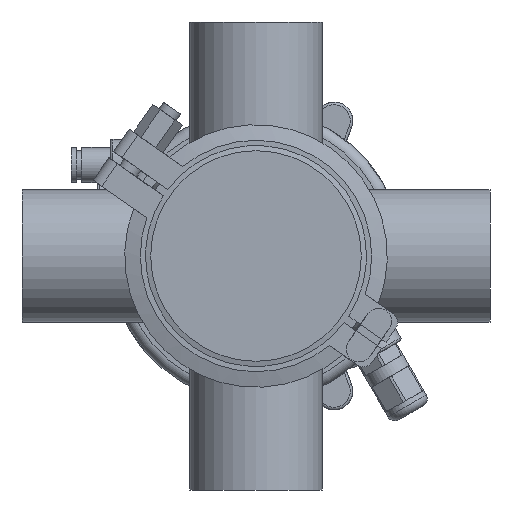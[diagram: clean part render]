
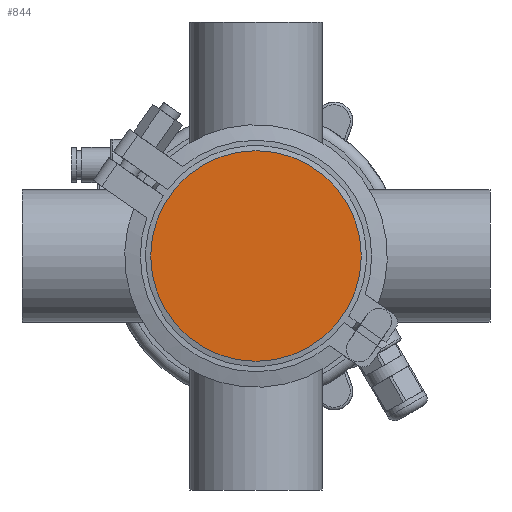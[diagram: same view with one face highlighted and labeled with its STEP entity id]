
A CAD part, front view. The second image highlights one B-rep face of the part: STEP entity #844.
In plain terms, the highlighted planar face has unit normal (0, -1, 0).
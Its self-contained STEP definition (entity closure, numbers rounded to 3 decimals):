
#128 = VERTEX_POINT ( 'NONE', #44507 ) ;
#844 = ADVANCED_FACE ( 'NONE', ( #53681 ), #58310, .T. ) ;
#2444 = EDGE_LOOP ( 'NONE', ( #24097 ) ) ;
#11521 = AXIS2_PLACEMENT_3D ( 'NONE', #30973, #35917, #49765 ) ;
#24097 = ORIENTED_EDGE ( 'NONE', *, *, #29806, .F. ) ;
#29806 = EDGE_CURVE ( 'NONE', #128, #128, #38192, .T. ) ;
#30973 = CARTESIAN_POINT ( 'NONE',  ( 0., 0., 0. ) ) ;
#35917 = DIRECTION ( 'NONE',  ( 0., 1., 0. ) ) ;
#38192 = CIRCLE ( 'NONE', #11521, 40.5 ) ;
#39546 = CARTESIAN_POINT ( 'NONE',  ( -40.5, 0., 0. ) ) ;
#44449 = DIRECTION ( 'NONE',  ( 0., -1., 0. ) ) ;
#44507 = CARTESIAN_POINT ( 'NONE',  ( 0., 0., 40.5 ) ) ;
#45047 = DIRECTION ( 'NONE',  ( 0., 0., -1. ) ) ;
#45989 = AXIS2_PLACEMENT_3D ( 'NONE', #39546, #44449, #45047 ) ;
#49765 = DIRECTION ( 'NONE',  ( 0., 0., 1. ) ) ;
#53681 = FACE_OUTER_BOUND ( 'NONE', #2444, .T. ) ;
#58310 = PLANE ( 'NONE',  #45989 ) ;
